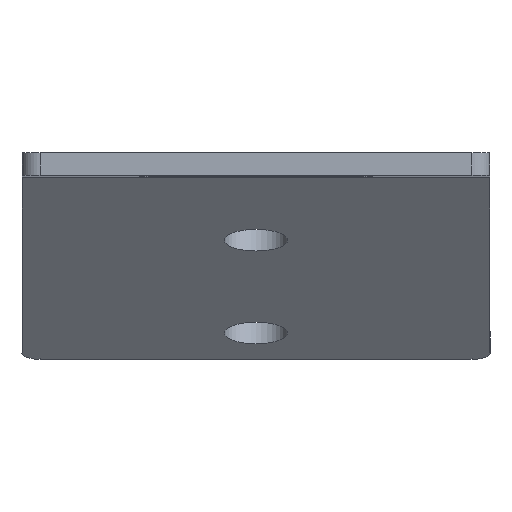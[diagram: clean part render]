
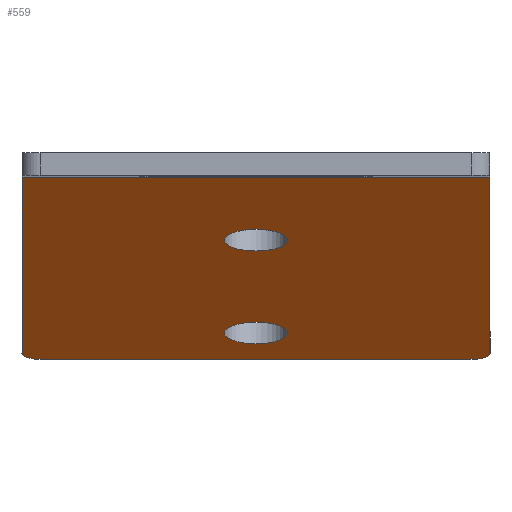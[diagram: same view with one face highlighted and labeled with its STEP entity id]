
A CAD part, top view. The second image highlights one B-rep face of the part: STEP entity #559.
In plain terms, the highlighted planar face has unit normal (0, -0.94, 0.342).
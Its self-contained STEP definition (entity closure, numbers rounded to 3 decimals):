
#14=FACE_BOUND('',#75,.T.);
#15=FACE_BOUND('',#76,.T.);
#25=PLANE('',#618);
#44=FACE_OUTER_BOUND('',#74,.T.);
#74=EDGE_LOOP('',(#374,#375,#376,#377,#378,#379));
#75=EDGE_LOOP('',(#380));
#76=EDGE_LOOP('',(#381));
#114=LINE('',#856,#162);
#117=LINE('',#862,#165);
#118=LINE('',#866,#166);
#119=LINE('',#867,#167);
#162=VECTOR('',#692,10.);
#165=VECTOR('',#697,10.);
#166=VECTOR('',#700,10.);
#167=VECTOR('',#701,10.);
#206=CIRCLE('',#609,3.5);
#208=CIRCLE('',#612,3.5);
#211=CIRCLE('',#616,2.);
#212=CIRCLE('',#619,2.);
#234=VERTEX_POINT('',#834);
#236=VERTEX_POINT('',#840);
#240=VERTEX_POINT('',#849);
#241=VERTEX_POINT('',#851);
#242=VERTEX_POINT('',#855);
#244=VERTEX_POINT('',#861);
#245=VERTEX_POINT('',#863);
#246=VERTEX_POINT('',#865);
#282=EDGE_CURVE('',#234,#234,#206,.T.);
#285=EDGE_CURVE('',#236,#236,#208,.T.);
#290=EDGE_CURVE('',#240,#241,#211,.T.);
#292=EDGE_CURVE('',#242,#241,#114,.T.);
#295=EDGE_CURVE('',#240,#244,#117,.T.);
#296=EDGE_CURVE('',#245,#244,#212,.T.);
#297=EDGE_CURVE('',#246,#245,#118,.T.);
#298=EDGE_CURVE('',#246,#242,#119,.T.);
#374=ORIENTED_EDGE('',*,*,#290,.F.);
#375=ORIENTED_EDGE('',*,*,#295,.T.);
#376=ORIENTED_EDGE('',*,*,#296,.F.);
#377=ORIENTED_EDGE('',*,*,#297,.F.);
#378=ORIENTED_EDGE('',*,*,#298,.T.);
#379=ORIENTED_EDGE('',*,*,#292,.T.);
#380=ORIENTED_EDGE('',*,*,#282,.T.);
#381=ORIENTED_EDGE('',*,*,#285,.T.);
#559=ADVANCED_FACE('',(#44,#14,#15),#25,.F.);
#609=AXIS2_PLACEMENT_3D('',#835,#670,#671);
#612=AXIS2_PLACEMENT_3D('',#841,#677,#678);
#616=AXIS2_PLACEMENT_3D('',#852,#687,#688);
#618=AXIS2_PLACEMENT_3D('',#860,#695,#696);
#619=AXIS2_PLACEMENT_3D('',#864,#698,#699);
#670=DIRECTION('center_axis',(0.,0.94,-0.342));
#671=DIRECTION('ref_axis',(1.,0.,0.));
#677=DIRECTION('center_axis',(0.,0.94,-0.342));
#678=DIRECTION('ref_axis',(1.,0.,0.));
#687=DIRECTION('center_axis',(0.,0.94,-0.342));
#688=DIRECTION('ref_axis',(-0.707,-0.242,-0.664));
#692=DIRECTION('',(0.,-0.342,-0.94));
#695=DIRECTION('center_axis',(0.,0.94,-0.342));
#696=DIRECTION('ref_axis',(0.,0.342,0.94));
#697=DIRECTION('',(1.,0.,0.));
#698=DIRECTION('center_axis',(0.,0.94,-0.342));
#699=DIRECTION('ref_axis',(0.707,-0.242,-0.664));
#700=DIRECTION('',(0.,-0.342,-0.94));
#701=DIRECTION('',(-1.,0.,0.));
#834=CARTESIAN_POINT('',(-3.5,-7.032,-63.628));
#835=CARTESIAN_POINT('Origin',(0.,-7.032,-63.628));
#840=CARTESIAN_POINT('',(-3.5,-17.292,-91.819));
#841=CARTESIAN_POINT('Origin',(0.,-17.292,-91.819));
#849=CARTESIAN_POINT('',(-24.,-20.199,-99.807));
#851=CARTESIAN_POINT('',(-26.,-19.515,-97.927));
#852=CARTESIAN_POINT('Origin',(-24.,-19.515,-97.927));
#855=CARTESIAN_POINT('',(-26.,-0.151,-44.723));
#856=CARTESIAN_POINT('',(-26.,0.279,-43.543));
#860=CARTESIAN_POINT('Origin',(0.,-9.96,-71.675));
#861=CARTESIAN_POINT('',(24.,-20.199,-99.807));
#862=CARTESIAN_POINT('',(-26.,-20.199,-99.807));
#863=CARTESIAN_POINT('',(26.,-19.515,-97.927));
#864=CARTESIAN_POINT('Origin',(24.,-19.515,-97.927));
#865=CARTESIAN_POINT('',(26.,-0.151,-44.723));
#866=CARTESIAN_POINT('',(26.,0.279,-43.543));
#867=CARTESIAN_POINT('',(0.,-0.151,-44.723));
